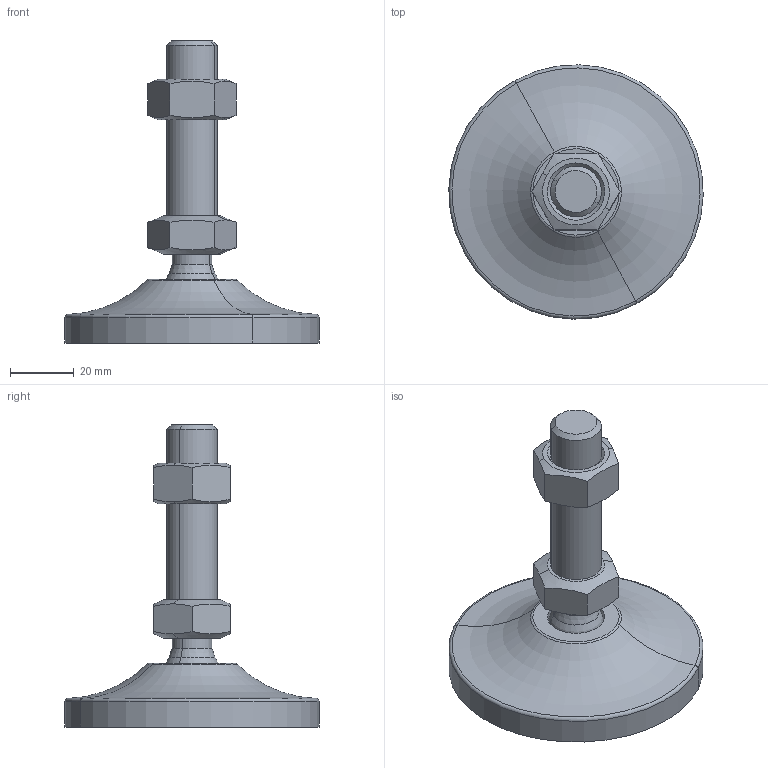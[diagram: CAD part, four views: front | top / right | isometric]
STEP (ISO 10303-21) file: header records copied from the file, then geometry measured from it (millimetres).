
FILE_DESCRIPTION(('CATIA V5 STEP Exchange'),'2;1');
FILE_NAME('C:\Users\ALI OZGUN\Desktop\alhan\saplama2\560802610.stp','2017-09-21T10:34:21+00:00',('none'),('none'),'CATIA Version 5 Release 21 GA (IN-10)','CATIA V5 STEP AP203','none');
FILE_SCHEMA(('CONFIG_CONTROL_DESIGN'));
Length unit declared in the file: millimetre
Products named in the file (1): 560802610
Bounding box: 79.98 x 79.98 x 95 mm (x, y, z)
Volume: 64842.5 mm3; surface area: 21585.3 mm2
Topology: 3 solids, 3 shells, 60 faces, 136 edges, 83 vertices
Faces by surface type: plane 20, cone 16, cylinder 14, torus 6, revolution 2, sphere 2
Entity records: 1870 total; most frequent: CARTESIAN_POINT 628, ORIENTED_EDGE 268, DIRECTION 186, EDGE_CURVE 134, AXIS2_PLACEMENT_3D 100, VERTEX_POINT 83, EDGE_LOOP 67, ADVANCED_FACE 60
